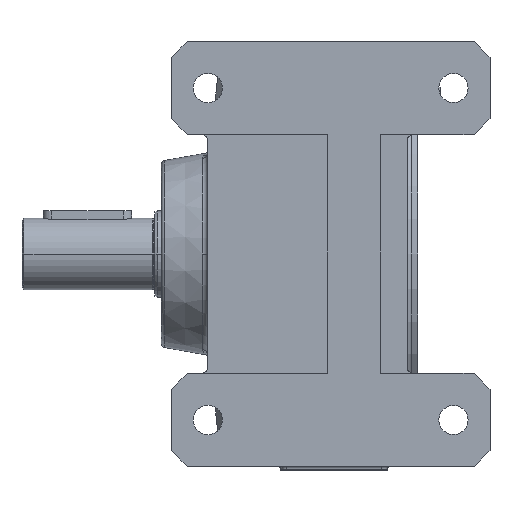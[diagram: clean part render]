
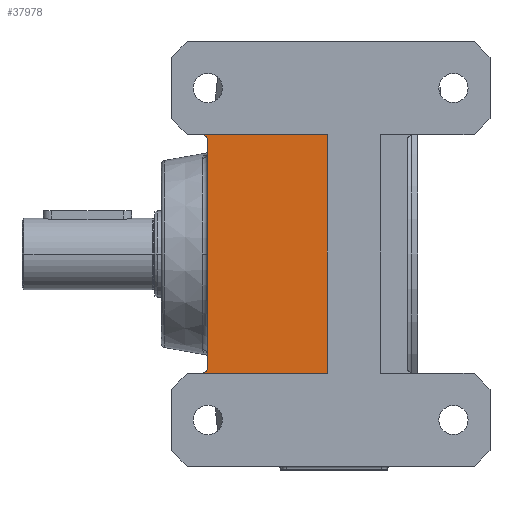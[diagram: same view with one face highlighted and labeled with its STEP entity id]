
A CAD part, front view. The second image highlights one B-rep face of the part: STEP entity #37978.
In plain terms, the highlighted planar face has unit normal (0, -1, 0).
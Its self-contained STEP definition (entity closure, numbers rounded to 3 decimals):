
#4073 = EDGE_CURVE ( 'NONE', #16438, #16440, #28814, .T. ) ;
#4074 = EDGE_CURVE ( 'NONE', #16438, #16439, #28817, .T. ) ;
#4075 = EDGE_CURVE ( 'NONE', #16440, #16441, #43946, .T. ) ;
#4076 = EDGE_CURVE ( 'NONE', #16441, #16442, #28823, .T. ) ;
#4077 = EDGE_CURVE ( 'NONE', #16442, #16443, #43945, .T. ) ;
#4078 = EDGE_CURVE ( 'NONE', #16439, #16443, #28829, .T. ) ;
#6334 = EDGE_LOOP ( 'NONE', ( #21298, #21296, #21297, #21295, #21294, #21293 ) ) ;
#15385 = VECTOR ( 'NONE', #28831, 1000. ) ;
#16438 = VERTEX_POINT ( 'NONE', #50722 ) ;
#16439 = VERTEX_POINT ( 'NONE', #50723 ) ;
#16440 = VERTEX_POINT ( 'NONE', #50724 ) ;
#16441 = VERTEX_POINT ( 'NONE', #50725 ) ;
#16442 = VERTEX_POINT ( 'NONE', #50726 ) ;
#16443 = VERTEX_POINT ( 'NONE', #50727 ) ;
#21293 = ORIENTED_EDGE ( 'NONE', *, *, #4078, .F. ) ;
#21294 = ORIENTED_EDGE ( 'NONE', *, *, #4077, .T. ) ;
#21295 = ORIENTED_EDGE ( 'NONE', *, *, #4076, .T. ) ;
#21296 = ORIENTED_EDGE ( 'NONE', *, *, #4073, .T. ) ;
#21297 = ORIENTED_EDGE ( 'NONE', *, *, #4075, .T. ) ;
#21298 = ORIENTED_EDGE ( 'NONE', *, *, #4074, .F. ) ;
#26363 = AXIS2_PLACEMENT_3D ( 'NONE', #28822, #28826, #28827 ) ;
#26364 = VECTOR ( 'NONE', #28816, 1000. ) ;
#26417 = VECTOR ( 'NONE', #28825, 1000. ) ;
#26418 = AXIS2_PLACEMENT_3D ( 'NONE', #28810, #28820, #28821 ) ;
#26420 = VECTOR ( 'NONE', #28819, 1000. ) ;
#28810 = CARTESIAN_POINT ( 'NONE',  ( -5., -111., 85. ) ) ;
#28814 = LINE ( 'NONE', #28815, #26364 ) ;
#28815 = CARTESIAN_POINT ( 'NONE',  ( 212.5, -111., 90. ) ) ;
#28816 = DIRECTION ( 'NONE',  ( -1., 0., 0. ) ) ;
#28817 = LINE ( 'NONE', #28818, #26420 ) ;
#28818 = CARTESIAN_POINT ( 'NONE',  ( 90., -111., 0. ) ) ;
#28819 = DIRECTION ( 'NONE',  ( 0., 0., -1. ) ) ;
#28820 = DIRECTION ( 'NONE',  ( 0., 1., 0. ) ) ;
#28821 = DIRECTION ( 'NONE',  ( -1., 0., 0. ) ) ;
#28822 = CARTESIAN_POINT ( 'NONE',  ( -5., -111., -85. ) ) ;
#28823 = LINE ( 'NONE', #28824, #26417 ) ;
#28824 = CARTESIAN_POINT ( 'NONE',  ( 0., -111., -90. ) ) ;
#28825 = DIRECTION ( 'NONE',  ( 0., 0., -1. ) ) ;
#28826 = DIRECTION ( 'NONE',  ( 0., 1., 0. ) ) ;
#28827 = DIRECTION ( 'NONE',  ( -1., 0., 0. ) ) ;
#28829 = LINE ( 'NONE', #28830, #15385 ) ;
#28830 = CARTESIAN_POINT ( 'NONE',  ( 212.5, -111., -90. ) ) ;
#28831 = DIRECTION ( 'NONE',  ( -1., 0., 0. ) ) ;
#31752 = FACE_OUTER_BOUND ( 'NONE', #6334, .T. ) ;
#31756 = AXIS2_PLACEMENT_3D ( 'NONE', #39927, #39928, #39929 ) ;
#37978 = ADVANCED_FACE ( 'NONE', ( #31752 ), #39926, .F. ) ;
#39926 = PLANE ( 'NONE',  #31756 ) ;
#39927 = CARTESIAN_POINT ( 'NONE',  ( 212.5, -111., -90. ) ) ;
#39928 = DIRECTION ( 'NONE',  ( 0., 1., 0. ) ) ;
#39929 = DIRECTION ( 'NONE',  ( -1., 0., 0. ) ) ;
#43945 = CIRCLE ( 'NONE', #26363, 5. ) ;
#43946 = CIRCLE ( 'NONE', #26418, 5. ) ;
#50722 = CARTESIAN_POINT ( 'NONE',  ( 90., -111., 90. ) ) ;
#50723 = CARTESIAN_POINT ( 'NONE',  ( 90., -111., -90. ) ) ;
#50724 = CARTESIAN_POINT ( 'NONE',  ( -5., -111., 90. ) ) ;
#50725 = CARTESIAN_POINT ( 'NONE',  ( 0., -111., 85. ) ) ;
#50726 = CARTESIAN_POINT ( 'NONE',  ( 0., -111., -85. ) ) ;
#50727 = CARTESIAN_POINT ( 'NONE',  ( -5., -111., -90. ) ) ;
